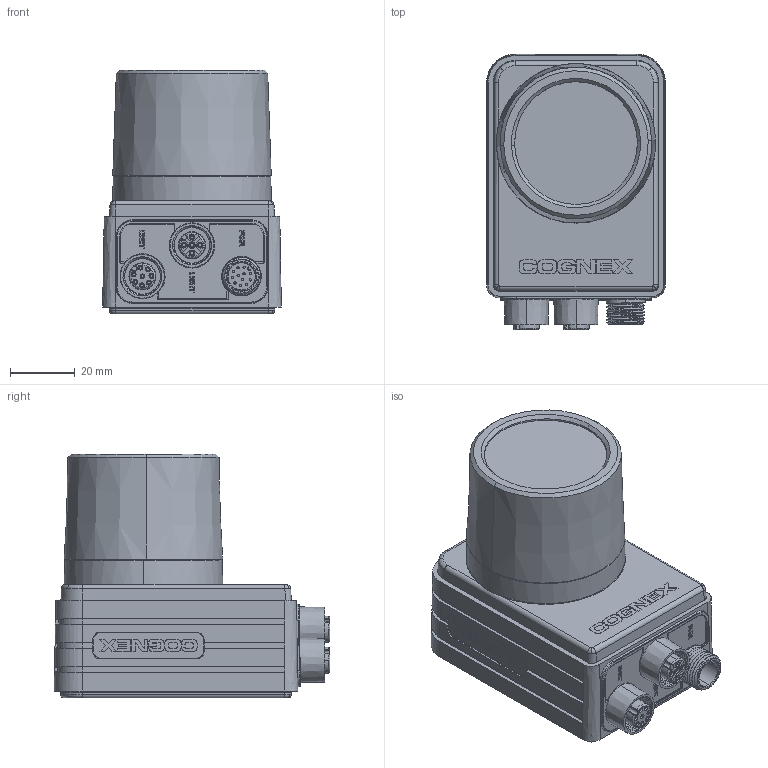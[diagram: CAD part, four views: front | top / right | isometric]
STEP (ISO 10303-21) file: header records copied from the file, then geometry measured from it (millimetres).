
FILE_DESCRIPTION (( 'STEP AP214' ), '1' );
FILE_NAME ('IS011-03_1-25-13.STEP', '2013-01-25T16:28:42', ( 'bob' ), ( 'Microsoft' ), 'SwSTEP 2.0', 'SolidWorks 2012', '' );
FILE_SCHEMA (( 'AUTOMOTIVE_DESIGN' ));
Length unit declared in the file: millimetre
Products named in the file (1): IS011-03_1-25-13
Bounding box: 55 x 84.81 x 75 mm (x, y, z)
Surface area: 63163.6 mm2 (no closed solid volume)
Topology: 0 solids, 21 shells, 2301 faces, 6015 edges, 3851 vertices
Faces by surface type: plane 1113, cylinder 452, bspline 368, cone 220, torus 102, sphere 46
Entity records: 102623 total; most frequent: CARTESIAN_POINT 36018, ORIENTED_EDGE 11907, DIRECTION 9969, EDGE_CURVE 5971, VERTEX_POINT 3847, VECTOR 3431, LINE 3431, AXIS2_PLACEMENT_3D 3269
